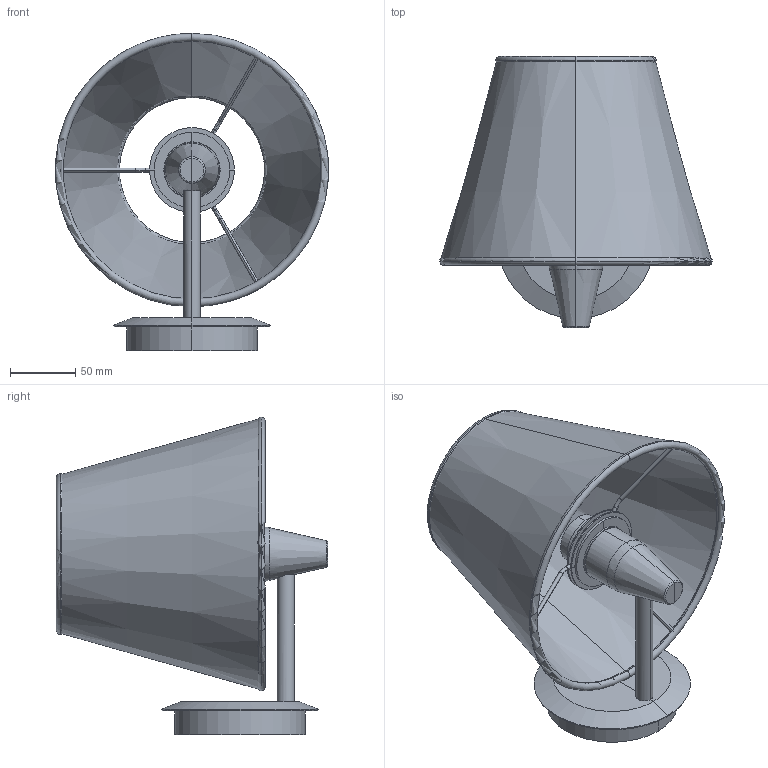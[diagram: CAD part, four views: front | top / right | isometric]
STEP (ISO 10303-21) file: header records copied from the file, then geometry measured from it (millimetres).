
FILE_DESCRIPTION(/* description */ (''),/* implementation_level */ '2;1');
FILE_NAME(/* name */ 'C:\Users\FrancoSartori\Documents\FARO\01_En Proceso\0000_2022\00_SAIPAN,HAKA,SUMBA,TUPAI\03_Publicación\64307-71.stp',/* time_stamp */ '2021-10-18T11:04:13+02:00',/* author */ ('FrancoSartori'),/* organization */ (''),/* preprocessor_version */ 'ST-DEVELOPER v18.1',/* originating_system */ 'AutoCAD Mechanical',/* authorisation */ '');
FILE_SCHEMA (('AUTOMOTIVE_DESIGN { 1 0 10303 214 3 1 1 }'));
Length unit declared in the file: millimetre
Products named in the file (3): Product; 64306_64307_rfa - structure-560838-Export; 2P0763 - SH-563184-Export
Assembly tree (2 placements, depth 2):
  Product
    64306_64307_rfa - structure-560838-Export
    2P0763 - SH-563184-Export
Bounding box: 209.35 x 207.83 x 243.23 mm (x, y, z)
Volume: 452506.9 mm3; surface area: 280125.1 mm2
Topology: 12 solids, 13 shells, 158 faces, 324 edges, 176 vertices
Faces by surface type: plane 64, cylinder 58, cone 18, torus 16, bspline 2
Entity records: 7643 total; most frequent: CARTESIAN_POINT 4253, DIRECTION 724, ORIENTED_EDGE 648, EDGE_CURVE 324, AXIS2_PLACEMENT_3D 283, VERTEX_POINT 176, EDGE_LOOP 162, FACE_OUTER_BOUND 158
